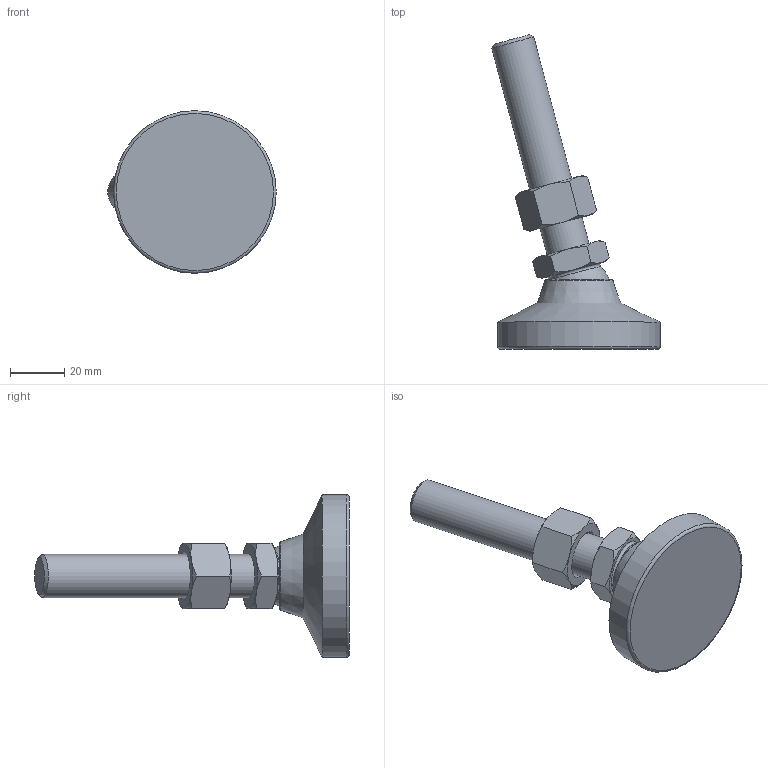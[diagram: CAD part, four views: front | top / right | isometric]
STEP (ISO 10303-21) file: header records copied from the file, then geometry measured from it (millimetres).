
FILE_DESCRIPTION( ( 'STEP AP214' ), ' ' );
FILE_NAME( 'O:/ganter_2015/teil_2/2_5/gn343_2/gn343_2_kre/Levelling foot with threaded stud GN 343.2-60-M16-80-KRE-(15).stp', '2015-10-26T09:20:16', ( '' ), ( '' ), ' ', 'PARTsolutions', ' ' );
FILE_SCHEMA( ( 'AUTOMOTIVE_DESIGN { 1 0 10303 214 1 1 1 1 }' ) );
Length unit declared in the file: millimetre
Products named in the file (4): Levelling foot with threaded stud GN 343.2-60-M16-80-KRE-(15); _Levelling foot with threaded stud GN 343.2-60-M16-80-KRE-(15)_foot; _Levelling foot with threaded stud GN 343.2-60-M16-80-KRE-(15)_screw; _Levelling foot with threaded stud GN 343.2-60-M16-80-KRE-(15)_nut
Assembly tree (3 placements, depth 2):
  Levelling foot with threaded stud GN 343.2-60-M16-80-KRE-(15)
    _Levelling foot with threaded stud GN 343.2-60-M16-80-KRE-(15)_foot
    _Levelling foot with threaded stud GN 343.2-60-M16-80-KRE-(15)_screw
    _Levelling foot with threaded stud GN 343.2-60-M16-80-KRE-(15)_nut
Bounding box: 62.12 x 116.01 x 60 mm (x, y, z)
Volume: 71690.5 mm3; surface area: 18100 mm2
Topology: 3 solids, 3 shells, 56 faces, 117 edges, 68 vertices
Faces by surface type: cone 29, plane 19, torus 3, cylinder 3, sphere 2
Full cylindrical faces by diameter (mm): 13.835 x1, 16 x1, 60 x1
Entity records: 2082 total; most frequent: CARTESIAN_POINT 514, DIRECTION 212, ORIENTED_EDGE 200, AXIS2_PLACEMENT_3D 100, EDGE_CURVE 100, EDGE_LOOP 72, VERTEX_POINT 66, FACE_OUTER_BOUND 62
